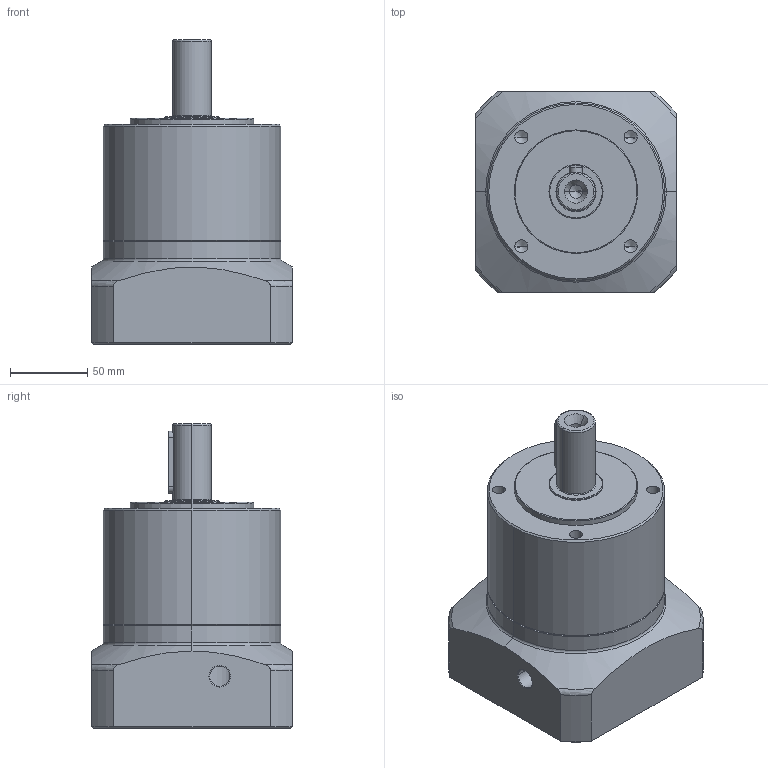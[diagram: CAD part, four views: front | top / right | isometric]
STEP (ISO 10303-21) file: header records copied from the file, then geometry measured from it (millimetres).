
FILE_DESCRIPTION (( 'STEP AP214' ), '1' );
FILE_NAME ('PL120-L1-22×55-110-145M8 三维零件图.STEP', '2021-08-06T06:23:26', ( 'XJJ' ), ( '' ), 'SwSTEP 2.0', 'SolidWorks 2016', '' );
FILE_SCHEMA (( 'AUTOMOTIVE_DESIGN' ));
Length unit declared in the file: millimetre
Products named in the file (3): hexagon socket head cap screws gb_GB_FASTENER_SCREWS_HSHCS M10X16-N; PL120-L1-22×60-110-145×M8 三维零件图; PL120-L1-22×55-110-145M8 三维零件图
Assembly tree (2 placements, depth 2):
  PL120-L1-22×55-110-145M8 三维零件图
    PL120-L1-22×60-110-145×M8 三维零件图
    hexagon socket head cap screws gb_GB_FASTENER_SCREWS_HSHCS M10X16-N
Bounding box: 130 x 130 x 197.5 mm (x, y, z)
Volume: 1593764.1 mm3; surface area: 121285.8 mm2
Topology: 2 solids, 2 shells, 181 faces, 422 edges, 246 vertices
Faces by surface type: cylinder 64, cone 48, plane 42, torus 27
Entity records: 5957 total; most frequent: CARTESIAN_POINT 1467, DIRECTION 940, ORIENTED_EDGE 804, EDGE_CURVE 402, AXIS2_PLACEMENT_3D 392, VERTEX_POINT 246, EDGE_LOOP 210, CIRCLE 206
